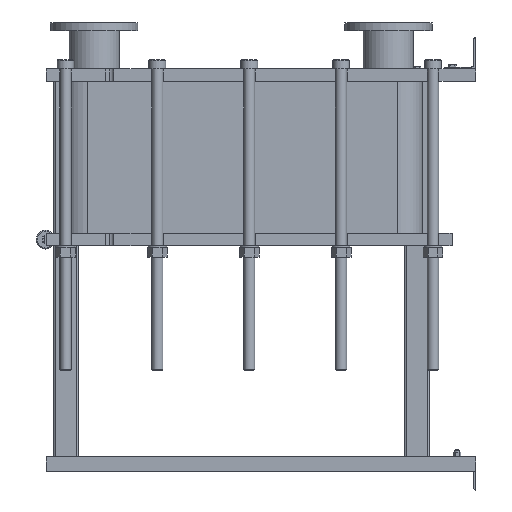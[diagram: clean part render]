
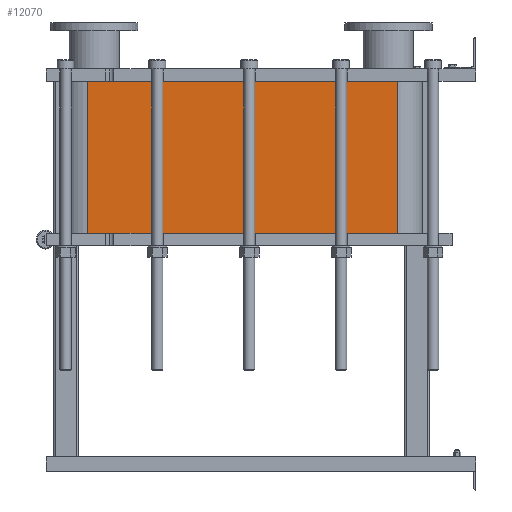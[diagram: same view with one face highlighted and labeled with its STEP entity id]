
A CAD part, left-side view. The second image highlights one B-rep face of the part: STEP entity #12070.
In plain terms, the highlighted planar face has unit normal (-1, 0, 0).
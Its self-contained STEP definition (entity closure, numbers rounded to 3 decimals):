
#1064=LINE('',#21140,#2164);
#1065=LINE('',#21144,#2165);
#1066=LINE('',#21146,#2166);
#1067=LINE('',#21147,#2167);
#2164=VECTOR('',#15790,10.);
#2165=VECTOR('',#15795,10.);
#2166=VECTOR('',#15796,10.);
#2167=VECTOR('',#15797,10.);
#3304=FACE_OUTER_BOUND('',#4091,.T.);
#4091=EDGE_LOOP('',(#9793,#9794,#9795,#9796));
#5677=VERTEX_POINT('',#21137);
#5678=VERTEX_POINT('',#21139);
#5679=VERTEX_POINT('',#21143);
#5680=VERTEX_POINT('',#21145);
#7118=EDGE_CURVE('',#5678,#5677,#1064,.T.);
#7120=EDGE_CURVE('',#5677,#5679,#1065,.T.);
#7121=EDGE_CURVE('',#5680,#5679,#1066,.T.);
#7122=EDGE_CURVE('',#5680,#5678,#1067,.T.);
#9793=ORIENTED_EDGE('',*,*,#7120,.T.);
#9794=ORIENTED_EDGE('',*,*,#7121,.F.);
#9795=ORIENTED_EDGE('',*,*,#7122,.T.);
#9796=ORIENTED_EDGE('',*,*,#7118,.T.);
#11441=PLANE('',#13191);
#12070=ADVANCED_FACE('',(#3304),#11441,.T.);
#13191=AXIS2_PLACEMENT_3D('',#21142,#15793,#15794);
#15790=DIRECTION('',(0.,0.,-1.));
#15793=DIRECTION('center_axis',(-1.,0.,0.));
#15794=DIRECTION('ref_axis',(0.,1.,0.));
#15795=DIRECTION('',(0.,-1.,0.));
#15796=DIRECTION('',(0.,0.,-1.));
#15797=DIRECTION('',(0.,1.,0.));
#21137=CARTESIAN_POINT('',(-248.152,1243.818,-486.45));
#21139=CARTESIAN_POINT('',(-248.152,1243.818,0.));
#21140=CARTESIAN_POINT('',(-248.152,1243.818,0.));
#21142=CARTESIAN_POINT('Origin',(-248.152,251.818,0.));
#21143=CARTESIAN_POINT('',(-248.152,251.818,-486.45));
#21144=CARTESIAN_POINT('',(-248.152,499.818,-486.45));
#21145=CARTESIAN_POINT('',(-248.152,251.818,0.));
#21146=CARTESIAN_POINT('',(-248.152,251.818,0.));
#21147=CARTESIAN_POINT('',(-248.152,251.818,0.));
